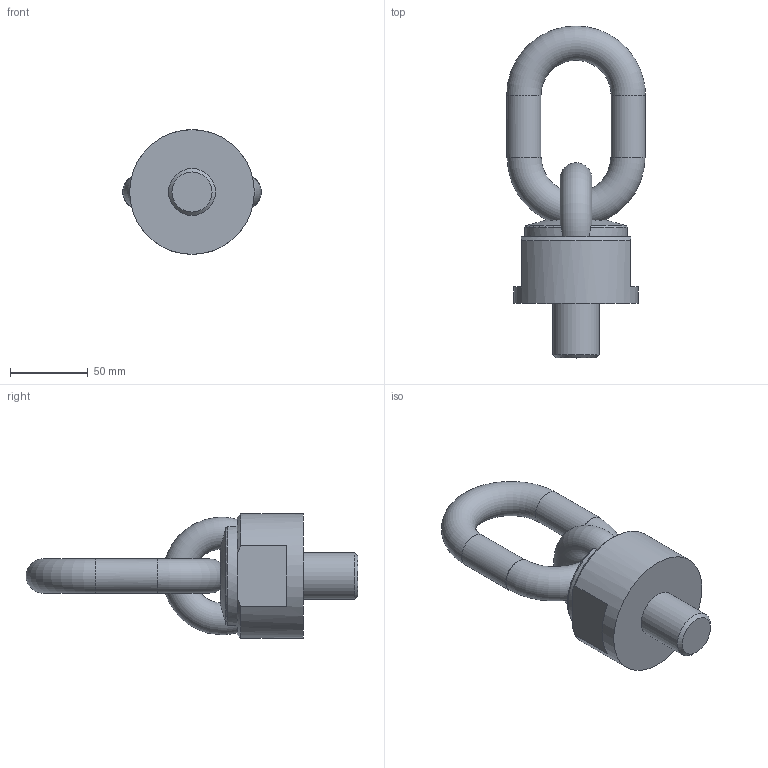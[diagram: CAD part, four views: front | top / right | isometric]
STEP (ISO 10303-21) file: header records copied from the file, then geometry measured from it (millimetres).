
FILE_DESCRIPTION( ( 'STEP AP203' ), '1' );
FILE_NAME( 'p:/temp/worker_15/temp/app_51_0201906261455265250688710e898ce_000000_00_00_000000/format_2/C800X0673035.stp', '2019-06-26T12:55:29', ( '' ), ( '' ), ' ', 'PARTsolutions', ' ' );
FILE_SCHEMA( ( 'CONFIG_CONTROL_DESIGN' ) );
Length unit declared in the file: millimetre
Products named in the file (1): _C800X0673035
Bounding box: 89 x 213 x 80 mm (x, y, z)
Volume: 400576.5 mm3; surface area: 48801.7 mm2
Topology: 1 solids, 1 shells, 28 faces, 70 edges, 44 vertices
Faces by surface type: plane 12, cylinder 6, torus 5, cone 5
Full cylindrical faces by diameter (mm): 22 x2, 30 x1, 80 x1
Entity records: 1227 total; most frequent: CARTESIAN_POINT 577, DIRECTION 122, ORIENTED_EDGE 116, EDGE_CURVE 58, AXIS2_PLACEMENT_3D 57, EDGE_LOOP 42, VERTEX_POINT 41, FACE_OUTER_BOUND 35
